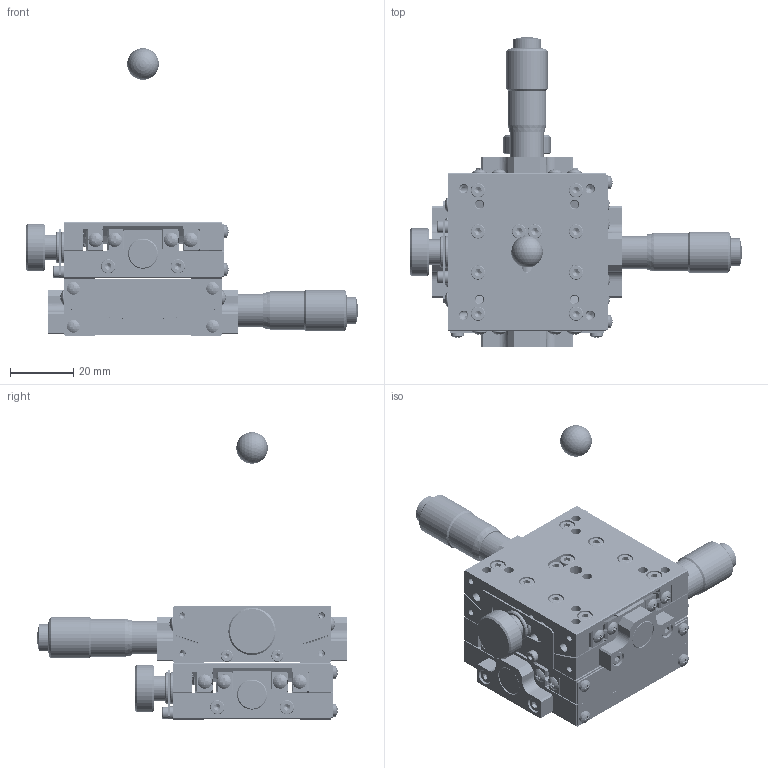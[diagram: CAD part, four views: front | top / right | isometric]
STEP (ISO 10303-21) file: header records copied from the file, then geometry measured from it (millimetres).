
FILE_DESCRIPTION (( 'STEP AP214' ), '1' );
FILE_NAME ('ST05A-C1S.STEP', '2007-08-01T08:03:08', ( ' ' ), ( ' ' ), 'SwSTEP 2.0', 'SolidWorks 2006052', '' );
FILE_SCHEMA (( 'AUTOMOTIVE_DESIGN' ));
Length unit declared in the file: millimetre
Products named in the file (11): ST05A-C1T(PL); 002560-1130(3D); 002560-1130(3D)-1; MICROMETERHEAD(MHS4-13)spindle-3; 002560-1010(3D)-1; ST05A-C1S; ST05A-C1S-Part-1; 002570-1020(3D)-1; MICROMETERHEAD(MHS4-13)spindle-2; ST05A-C1M(PL); 002570-1010(3D)-1
Assembly tree (10 placements, depth 3):
  ST05A-C1S
    ST05A-C1M(PL)
      002560-1130(3D)
      MICROMETERHEAD(MHS4-13)spindle-2
      002570-1010(3D)-1
      002570-1020(3D)-1
    ST05A-C1S-Part-1
    ST05A-C1T(PL)
      002560-1010(3D)-1
      002560-1130(3D)-1
      MICROMETERHEAD(MHS4-13)spindle-3
Bounding box: 105 x 98 x 91 mm (x, y, z)
Volume: 92998.1 mm3; surface area: 65468.7 mm2
Topology: 8 solids, 82 shells, 3928 faces, 9483 edges, 5630 vertices
Faces by surface type: plane 1710, cylinder 1263, cone 709, torus 184, sphere 62
Entity records: 120185 total; most frequent: CARTESIAN_POINT 28336, DIRECTION 19974, ORIENTED_EDGE 18496, EDGE_CURVE 9248, AXIS2_PLACEMENT_3D 7769, VERTEX_POINT 5627, VECTOR 4436, LINE 4436
